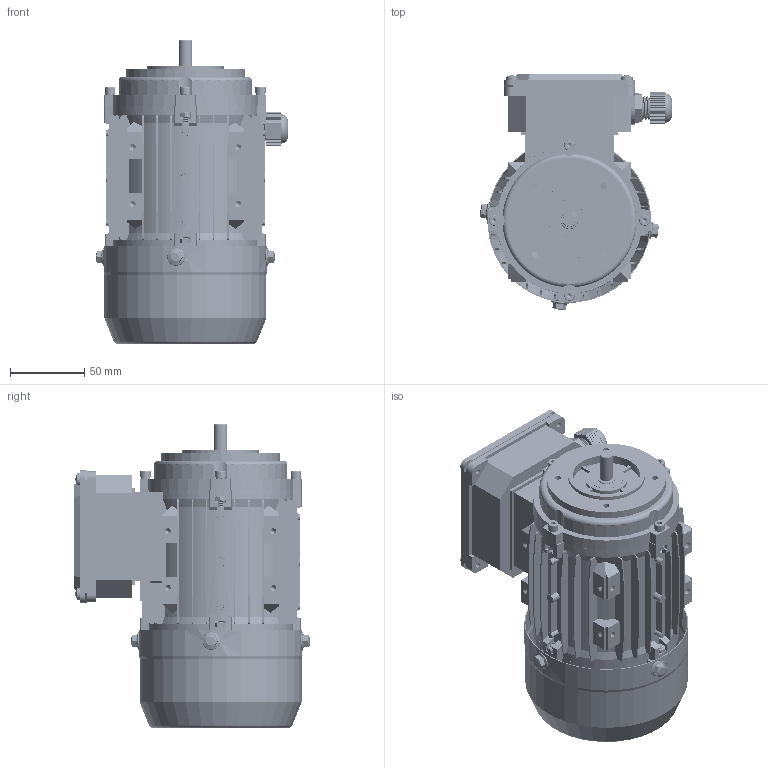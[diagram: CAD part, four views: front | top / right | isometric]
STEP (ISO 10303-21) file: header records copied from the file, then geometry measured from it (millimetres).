
FILE_DESCRIPTION (( 'STEP AP203' ), '1' );
FILE_NAME ('MS56 B14 3Dͼ.STEP', '2024-08-02T05:58:07', ( 'User' ), ( 'China' ), 'SwSTEP 2.0', 'SolidWorks 2018', '' );
FILE_SCHEMA (( 'CONFIG_CONTROL_DESIGN' ));
Length unit declared in the file: millimetre
Products named in the file (21): AO56瑞珔; 蹟杶簸M16X1.5; circlips for shaft--type a large gb_GB_CONNECTING_PIECE_RING_RRA 11; cross recessed pan head screws gb_GB_CROSS_SCREWS_TYPE1 M4X6-6  H type-S; MS56瑞欶; MS56諉盄碟裔; hexagon socket head cap screws gb_GB_FASTENER_SCREWS_HSHCS M4X16-S; 蚐猾12X22X3; hex nuts, style 1-grades ab gb_GB_FASTENER_NUT_SNAB1 M4-S; MS56儂褲; MS56B14ヶ裔; spring lock washers--normal type gb_GB_FASTENER_WASHER_SW 4; MS56B3綴裔; hexagon socket head cap screws gb_GB_FASTENER_SCREWS_HSHCS M4X20-S; hex flange bolts-heavy grade b gb_GB_FASTENER_BOLT_HFBB M5X10-S; deep groove ball bearings gb_Rolling bearings 6201 GB 276-94; 黑芛M16X1.5; MS56諉盄碟菁釱; MS56蛌粣; MS56 B14  3Dͼ; 蹟杶郋M16X1.5
Assembly tree (46 placements, depth 2):
  MS56 B14  3Dͼ
    MS56儂褲
    MS56B3綴裔
    deep groove ball bearings gb_Rolling bearings 6201 GB 276-94  x2
    MS56蛌粣
    AO56瑞珔
    circlips for shaft--type a large gb_GB_CONNECTING_PIECE_RING_RRA 11
    MS56瑞欶
    hexagon socket head cap screws gb_GB_FASTENER_SCREWS_HSHCS M4X16-S  x4
    hex nuts, style 1-grades ab gb_GB_FASTENER_NUT_SNAB1 M4-S  x7
    spring lock washers--normal type gb_GB_FASTENER_WASHER_SW 4  x4
    hex flange bolts-heavy grade b gb_GB_FASTENER_BOLT_HFBB M5X10-S  x4
    MS56諉盄碟菁釱
    蹟杶郋M16X1.5
    蹟杶簸M16X1.5
    cross recessed pan head screws gb_GB_CROSS_SCREWS_TYPE1 M4X6-6  H type-S  x8
    MS56諉盄碟裔
    蚐猾12X22X3
    MS56B14ヶ裔
    hexagon socket head cap screws gb_GB_FASTENER_SCREWS_HSHCS M4X20-S  x4
    黑芛M16X1.5
Bounding box: 129.02 x 158.56 x 204.54 mm (x, y, z)
Volume: 352808.2 mm3; surface area: 325398.6 mm2
Topology: 46 solids, 46 shells, 6648 faces, 15892 edges, 9316 vertices
Faces by surface type: cone 2412, plane 2121, cylinder 1709, bspline 174, torus 168, sphere 64
Entity records: 126477 total; most frequent: CARTESIAN_POINT 36436, ORIENTED_EDGE 18544, DIRECTION 17657, EDGE_CURVE 9272, AXIS2_PLACEMENT_3D 6027, VERTEX_POINT 5796, VECTOR 5603, LINE 5603
